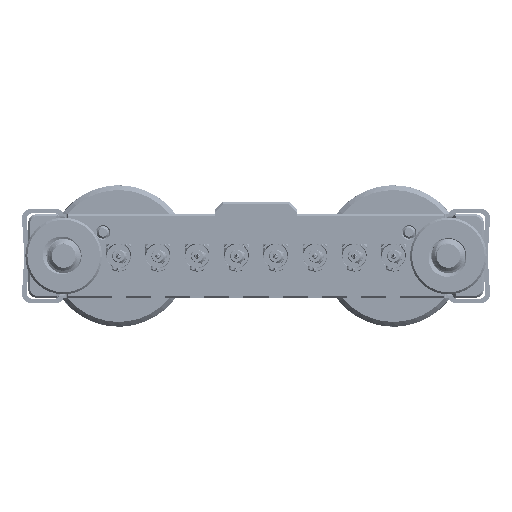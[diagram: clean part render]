
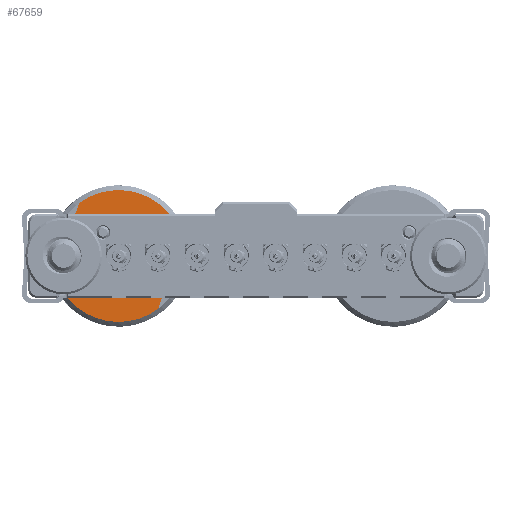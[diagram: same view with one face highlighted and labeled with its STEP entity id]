
A CAD part, front view. The second image highlights one B-rep face of the part: STEP entity #67659.
In plain terms, the highlighted planar face has unit normal (0, -1, 0) as drawn and (0, 0, -1) by its records, which use the part's own axes.
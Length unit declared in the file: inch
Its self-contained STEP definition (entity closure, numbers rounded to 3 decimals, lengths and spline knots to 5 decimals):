
#623 = CARTESIAN_POINT ( 'NONE',  ( 0., 0., -0.23228 ) ) ;
#939 = CARTESIAN_POINT ( 'NONE',  ( 0., 0., -0.23228 ) ) ;
#1616 = AXIS2_PLACEMENT_3D ( 'NONE', #36657, #79131, #5486 ) ;
#2750 = CARTESIAN_POINT ( 'NONE',  ( 0., 0.07343, -0.23228 ) ) ;
#4029 = ORIENTED_EDGE ( 'NONE', *, *, #70376, .T. ) ;
#5486 = DIRECTION ( 'NONE',  ( 0., -1., 0. ) ) ;
#7520 = DIRECTION ( 'NONE',  ( 1., 0., 0. ) ) ;
#8410 = EDGE_CURVE ( 'NONE', #46862, #13262, #27834, .T. ) ;
#10363 = CIRCLE ( 'NONE', #51713, 0.07343 ) ;
#12496 = DIRECTION ( 'NONE',  ( 0., 0., -1. ) ) ;
#13262 = VERTEX_POINT ( 'NONE', #49184 ) ;
#13677 = EDGE_CURVE ( 'NONE', #40402, #44661, #10363, .T. ) ;
#14870 = ORIENTED_EDGE ( 'NONE', *, *, #13677, .T. ) ;
#15600 = CIRCLE ( 'NONE', #73704, 0.16535 ) ;
#17156 = CARTESIAN_POINT ( 'NONE',  ( -0.1378, -0.0914, -0.23228 ) ) ;
#18483 = CIRCLE ( 'NONE', #63708, 0.16535 ) ;
#19357 = CARTESIAN_POINT ( 'NONE',  ( 0., -0.16535, -0.23228 ) ) ;
#21628 = EDGE_CURVE ( 'NONE', #42240, #59330, #53709, .T. ) ;
#27834 = LINE ( 'NONE', #40397, #61397 ) ;
#29302 = DIRECTION ( 'NONE',  ( 0., -1., 0. ) ) ;
#29945 = CARTESIAN_POINT ( 'NONE',  ( 0., -0.07343, -0.23228 ) ) ;
#31219 = ORIENTED_EDGE ( 'NONE', *, *, #8410, .F. ) ;
#31530 = ORIENTED_EDGE ( 'NONE', *, *, #21628, .T. ) ;
#36404 = PLANE ( 'NONE',  #53689 ) ;
#36556 = CIRCLE ( 'NONE', #1616, 0.07343 ) ;
#36657 = CARTESIAN_POINT ( 'NONE',  ( 0., 0., -0.23228 ) ) ;
#40397 = CARTESIAN_POINT ( 'NONE',  ( 0.1378, -0.19685, -0.23228 ) ) ;
#40402 = VERTEX_POINT ( 'NONE', #2750 ) ;
#42240 = VERTEX_POINT ( 'NONE', #17156 ) ;
#43890 = EDGE_LOOP ( 'NONE', ( #64419, #14870 ) ) ;
#44661 = VERTEX_POINT ( 'NONE', #29945 ) ;
#46862 = VERTEX_POINT ( 'NONE', #54485 ) ;
#48472 = CARTESIAN_POINT ( 'NONE',  ( -0.1378, 0.0914, -0.23228 ) ) ;
#49184 = CARTESIAN_POINT ( 'NONE',  ( 0.1378, 0.0914, -0.23228 ) ) ;
#51109 = DIRECTION ( 'NONE',  ( 1., 0., 0. ) ) ;
#51639 = EDGE_CURVE ( 'NONE', #46862, #42240, #18483, .T. ) ;
#51713 = AXIS2_PLACEMENT_3D ( 'NONE', #61638, #79451, #29302 ) ;
#53689 = AXIS2_PLACEMENT_3D ( 'NONE', #19357, #12496, #66736 ) ;
#53709 = LINE ( 'NONE', #68673, #56234 ) ;
#54485 = CARTESIAN_POINT ( 'NONE',  ( 0.1378, -0.0914, -0.23228 ) ) ;
#54568 = ORIENTED_EDGE ( 'NONE', *, *, #51639, .T. ) ;
#54962 = FACE_OUTER_BOUND ( 'NONE', #70243, .T. ) ;
#55350 = FACE_BOUND ( 'NONE', #43890, .T. ) ;
#56234 = VECTOR ( 'NONE', #56500, 39.37008 ) ;
#56500 = DIRECTION ( 'NONE',  ( 0., 1., 0. ) ) ;
#59330 = VERTEX_POINT ( 'NONE', #48472 ) ;
#61397 = VECTOR ( 'NONE', #77966, 39.37008 ) ;
#61415 = EDGE_CURVE ( 'NONE', #44661, #40402, #36556, .T. ) ;
#61638 = CARTESIAN_POINT ( 'NONE',  ( 0., 0., -0.23228 ) ) ;
#63708 = AXIS2_PLACEMENT_3D ( 'NONE', #623, #74686, #7520 ) ;
#64419 = ORIENTED_EDGE ( 'NONE', *, *, #61415, .T. ) ;
#66736 = DIRECTION ( 'NONE',  ( 0., -1., 0. ) ) ;
#67659 = ADVANCED_FACE ( 'NONE', ( #54962, #55350 ), #36404, .T. ) ;
#68673 = CARTESIAN_POINT ( 'NONE',  ( -0.1378, -0.19685, -0.23228 ) ) ;
#69332 = DIRECTION ( 'NONE',  ( 0., 0., -1. ) ) ;
#70243 = EDGE_LOOP ( 'NONE', ( #31219, #54568, #31530, #4029 ) ) ;
#70376 = EDGE_CURVE ( 'NONE', #59330, #13262, #15600, .T. ) ;
#73704 = AXIS2_PLACEMENT_3D ( 'NONE', #939, #69332, #51109 ) ;
#74686 = DIRECTION ( 'NONE',  ( 0., 0., -1. ) ) ;
#77966 = DIRECTION ( 'NONE',  ( 0., 1., 0. ) ) ;
#79131 = DIRECTION ( 'NONE',  ( 0., 0., 1. ) ) ;
#79451 = DIRECTION ( 'NONE',  ( 0., 0., 1. ) ) ;
